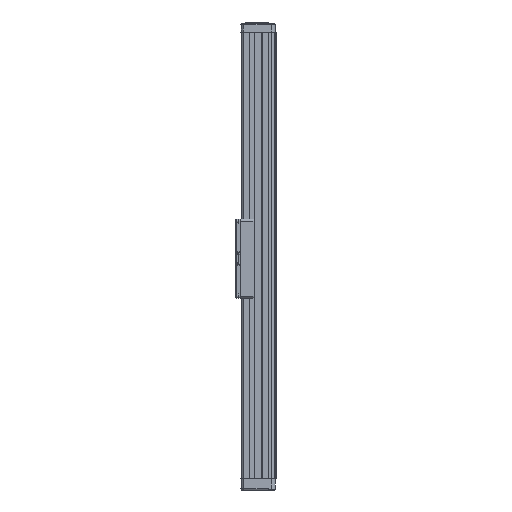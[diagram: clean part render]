
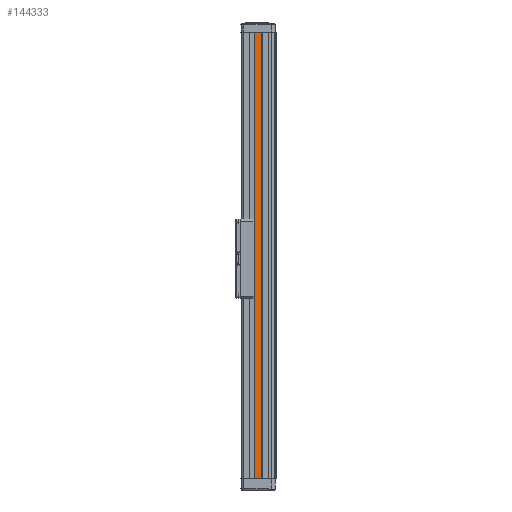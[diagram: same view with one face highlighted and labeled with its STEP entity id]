
A CAD part, left-side view. The second image highlights one B-rep face of the part: STEP entity #144333.
In plain terms, the highlighted planar face has unit normal (-1, 0, 0).
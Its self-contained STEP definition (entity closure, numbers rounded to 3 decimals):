
#13167 = VECTOR ( 'NONE', #35453, 1000. ) ;
#23662 = PLANE ( 'NONE',  #83293 ) ;
#35453 = DIRECTION ( 'NONE',  ( 0., 0., -1. ) ) ;
#35503 = CARTESIAN_POINT ( 'NONE',  ( -103., 38., -660.4 ) ) ;
#35543 = VECTOR ( 'NONE', #112744, 1000. ) ;
#37448 = CARTESIAN_POINT ( 'NONE',  ( -103., 59.5, 660.4 ) ) ;
#51710 = CARTESIAN_POINT ( 'NONE',  ( -103., 10., 660.4 ) ) ;
#53885 = LINE ( 'NONE', #156920, #158828 ) ;
#54211 = ORIENTED_EDGE ( 'NONE', *, *, #112479, .T. ) ;
#57591 = CARTESIAN_POINT ( 'NONE',  ( -103., 38., -660.4 ) ) ;
#58109 = VERTEX_POINT ( 'NONE', #60947 ) ;
#60947 = CARTESIAN_POINT ( 'NONE',  ( -103., 38., 660.4 ) ) ;
#61130 = DIRECTION ( 'NONE',  ( 0., -1., 0. ) ) ;
#65453 = DIRECTION ( 'NONE',  ( 0., 0., -1. ) ) ;
#65544 = ORIENTED_EDGE ( 'NONE', *, *, #137577, .F. ) ;
#65751 = EDGE_CURVE ( 'NONE', #124411, #58109, #71884, .T. ) ;
#70199 = EDGE_LOOP ( 'NONE', ( #83481, #123525, #65544, #54211 ) ) ;
#71884 = LINE ( 'NONE', #57591, #35543 ) ;
#73794 = VERTEX_POINT ( 'NONE', #157332 ) ;
#83293 = AXIS2_PLACEMENT_3D ( 'NONE', #51710, #147363, #65453 ) ;
#83481 = ORIENTED_EDGE ( 'NONE', *, *, #127423, .T. ) ;
#102208 = VECTOR ( 'NONE', #105058, 1000. ) ;
#104446 = FACE_OUTER_BOUND ( 'NONE', #70199, .T. ) ;
#105058 = DIRECTION ( 'NONE',  ( 0., -1., 0. ) ) ;
#112479 = EDGE_CURVE ( 'NONE', #135422, #73794, #122296, .T. ) ;
#112744 = DIRECTION ( 'NONE',  ( 0., 0., 1. ) ) ;
#122296 = LINE ( 'NONE', #130504, #13167 ) ;
#123525 = ORIENTED_EDGE ( 'NONE', *, *, #65751, .T. ) ;
#124411 = VERTEX_POINT ( 'NONE', #35503 ) ;
#127423 = EDGE_CURVE ( 'NONE', #73794, #124411, #138491, .T. ) ;
#130504 = CARTESIAN_POINT ( 'NONE',  ( -103., 59.5, 660.4 ) ) ;
#135422 = VERTEX_POINT ( 'NONE', #37448 ) ;
#137577 = EDGE_CURVE ( 'NONE', #135422, #58109, #53885, .T. ) ;
#138491 = LINE ( 'NONE', #159569, #102208 ) ;
#144333 = ADVANCED_FACE ( 'NONE', ( #104446 ), #23662, .F. ) ;
#147363 = DIRECTION ( 'NONE',  ( 1., 0., 0. ) ) ;
#156920 = CARTESIAN_POINT ( 'NONE',  ( -103., 10., 660.4 ) ) ;
#157332 = CARTESIAN_POINT ( 'NONE',  ( -103., 59.5, -660.4 ) ) ;
#158828 = VECTOR ( 'NONE', #61130, 1000. ) ;
#159569 = CARTESIAN_POINT ( 'NONE',  ( -103., 10., -660.4 ) ) ;
